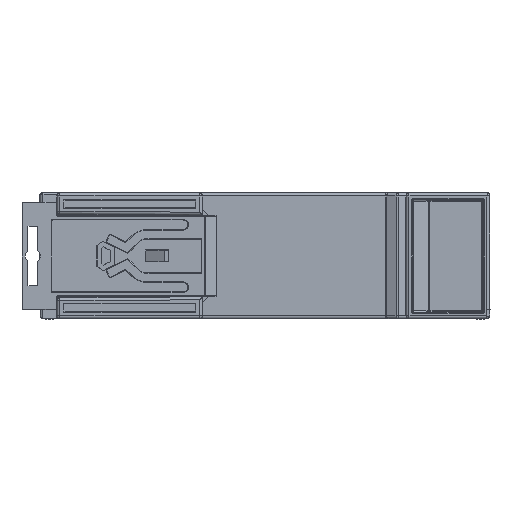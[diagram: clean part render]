
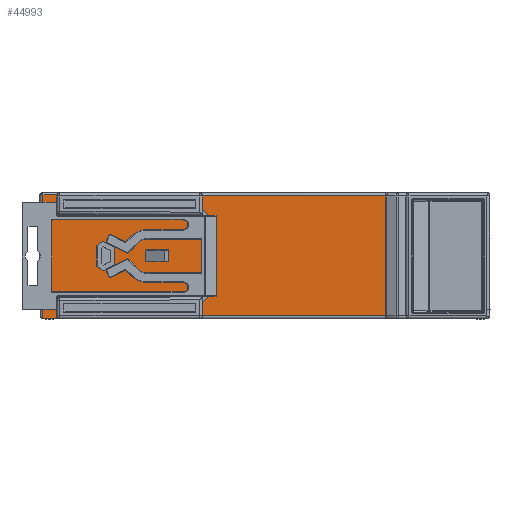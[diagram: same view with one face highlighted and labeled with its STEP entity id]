
A CAD part, left-side view. The second image highlights one B-rep face of the part: STEP entity #44993.
In plain terms, the highlighted planar face has unit normal (-1, 0, 0).
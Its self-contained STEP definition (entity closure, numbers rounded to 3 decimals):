
#923=DIRECTION('',(0.,-1.,0.));
#924=VECTOR('',#923,2.742);
#925=CARTESIAN_POINT('',(-44.75,36.942,0.));
#926=LINE('',#925,#924);
#1011=DIRECTION('',(0.,0.,1.));
#1012=VECTOR('',#1011,20.);
#1013=CARTESIAN_POINT('',(-44.75,-20.161,0.5));
#1014=LINE('',#1013,#1012);
#1049=DIRECTION('',(0.,-1.,0.));
#1050=VECTOR('',#1049,30.561);
#1051=CARTESIAN_POINT('',(-44.75,10.4,0.5));
#1052=LINE('',#1051,#1050);
#1075=CARTESIAN_POINT('',(-44.75,34.2,20.5));
#1076=DIRECTION('',(-1.,0.,0.));
#1077=DIRECTION('',(0.,0.916,0.4));
#1078=AXIS2_PLACEMENT_3D('',#1075,#1076,#1077);
#1083=CARTESIAN_POINT('',(-44.75,34.2,19.008));
#1084=DIRECTION('',(-1.,0.,0.));
#1085=DIRECTION('',(0.,1.,0.));
#1086=AXIS2_PLACEMENT_3D('',#1083,#1084,#1085);
#1091=DIRECTION('',(0.,-1.,-0.009));
#1092=VECTOR('',#1091,23.805);
#1093=CARTESIAN_POINT('',(-44.75,34.204,18.508));
#1094=LINE('',#1093,#1092);
#1098=DIRECTION('',(0.,0.,1.));
#1099=VECTOR('',#1098,2.2);
#1100=CARTESIAN_POINT('',(-44.75,10.4,18.3));
#1101=LINE('',#1100,#1099);
#1105=DIRECTION('',(0.,0.,1.));
#1106=VECTOR('',#1105,2.2);
#1107=CARTESIAN_POINT('',(-44.75,10.4,0.5));
#1108=LINE('',#1107,#1106);
#1112=DIRECTION('',(0.,1.,-0.009));
#1113=VECTOR('',#1112,23.805);
#1114=CARTESIAN_POINT('',(-44.75,10.4,2.7));
#1115=LINE('',#1114,#1113);
#1119=CARTESIAN_POINT('',(-44.75,34.2,1.992));
#1120=DIRECTION('',(-1.,0.,0.));
#1121=DIRECTION('',(0.,0.009,1.));
#1122=AXIS2_PLACEMENT_3D('',#1119,#1120,#1121);
#1127=CARTESIAN_POINT('',(-44.75,34.2,0.5));
#1128=DIRECTION('',(-1.,0.,0.));
#1129=DIRECTION('',(0.,1.,0.));
#1130=AXIS2_PLACEMENT_3D('',#1127,#1128,#1129);
#1135=CARTESIAN_POINT('',(-44.75,36.942,0.5));
#1136=DIRECTION('',(1.,0.,0.));
#1137=DIRECTION('',(0.,0.,-1.));
#1138=AXIS2_PLACEMENT_3D('',#1135,#1136,#1137);
#1143=DIRECTION('',(0.,0.894,0.447));
#1144=VECTOR('',#1143,2.282);
#1145=CARTESIAN_POINT('',(-44.75,25.,11.95));
#1146=LINE('',#1145,#1144);
#1150=DIRECTION('',(0.,0.81,-0.587));
#1151=VECTOR('',#1150,1.185);
#1152=CARTESIAN_POINT('',(-44.75,27.041,12.97));
#1153=LINE('',#1152,#1151);
#1157=DIRECTION('',(0.,-0.81,-0.587));
#1158=VECTOR('',#1157,1.235);
#1159=CARTESIAN_POINT('',(-44.75,28.,8.775));
#1160=LINE('',#1159,#1158);
#1164=DIRECTION('',(0.,-0.894,0.447));
#1165=VECTOR('',#1164,2.236);
#1166=CARTESIAN_POINT('',(-44.75,27.,8.05));
#1167=LINE('',#1166,#1165);
#1171=DIRECTION('',(0.,-1.,0.));
#1172=VECTOR('',#1171,3.9);
#1173=CARTESIAN_POINT('',(-44.75,19.9,9.5));
#1174=LINE('',#1173,#1172);
#1178=DIRECTION('',(0.,0.,-1.));
#1179=VECTOR('',#1178,2.);
#1180=CARTESIAN_POINT('',(-44.75,19.9,11.5));
#1181=LINE('',#1180,#1179);
#1192=DIRECTION('',(0.,0.,-1.));
#1193=VECTOR('',#1192,20.697);
#1194=CARTESIAN_POINT('',(-44.75,37.,20.7));
#1195=LINE('',#1194,#1193);
#13279=DIRECTION('',(0.,1.,0.));
#13280=VECTOR('',#13279,30.561);
#13281=CARTESIAN_POINT('',(-44.75,-20.161,20.5));
#13282=LINE('',#13281,#13280);
#13366=DIRECTION('',(0.,0.,1.));
#13367=VECTOR('',#13366,1.492);
#13368=CARTESIAN_POINT('',(-44.75,34.7,19.008));
#13369=LINE('',#13368,#13367);
#13398=DIRECTION('',(0.,1.,0.));
#13399=VECTOR('',#13398,2.342);
#13400=CARTESIAN_POINT('',(-44.75,34.658,20.7));
#13401=LINE('',#13400,#13399);
#37928=DIRECTION('',(0.,0.,1.));
#37929=VECTOR('',#37928,1.492);
#37930=CARTESIAN_POINT('',(-44.75,34.7,0.5));
#37931=LINE('',#37930,#37929);
#38163=DIRECTION('',(0.,0.,-1.));
#38164=VECTOR('',#38163,2.9);
#38165=CARTESIAN_POINT('',(-44.75,25.,11.95));
#38166=LINE('',#38165,#38164);
#38191=DIRECTION('',(0.,0.,1.));
#38192=VECTOR('',#38191,3.5);
#38193=CARTESIAN_POINT('',(-44.75,28.,8.775));
#38194=LINE('',#38193,#38192);
#38394=DIRECTION('',(0.,-1.,0.));
#38395=VECTOR('',#38394,3.9);
#38396=CARTESIAN_POINT('',(-44.75,19.9,11.5));
#38397=LINE('',#38396,#38395);
#38422=DIRECTION('',(0.,0.,-1.));
#38423=VECTOR('',#38422,2.);
#38424=CARTESIAN_POINT('',(-44.75,16.,11.5));
#38425=LINE('',#38424,#38423);
#39072=CARTESIAN_POINT('',(-44.75,36.942,0.));
#39073=VERTEX_POINT('',#39072);
#39074=CARTESIAN_POINT('',(-44.75,34.2,0.));
#39075=VERTEX_POINT('',#39074);
#39128=CARTESIAN_POINT('',(-44.75,-20.161,0.5));
#39129=VERTEX_POINT('',#39128);
#39130=CARTESIAN_POINT('',(-44.75,-20.161,20.5));
#39131=VERTEX_POINT('',#39130);
#39132=CARTESIAN_POINT('',(-44.75,10.4,0.5));
#39133=VERTEX_POINT('',#39132);
#39154=CARTESIAN_POINT('',(-44.75,37.,20.7));
#39155=CARTESIAN_POINT('',(-44.75,37.,0.003));
#39156=VERTEX_POINT('',#39154);
#39157=VERTEX_POINT('',#39155);
#39158=CARTESIAN_POINT('',(-44.75,34.658,20.7));
#39159=VERTEX_POINT('',#39158);
#39160=CARTESIAN_POINT('',(-44.75,34.7,20.5));
#39161=VERTEX_POINT('',#39160);
#39162=CARTESIAN_POINT('',(-44.75,34.7,19.008));
#39163=VERTEX_POINT('',#39162);
#39164=CARTESIAN_POINT('',(-44.75,34.204,18.508));
#39165=VERTEX_POINT('',#39164);
#39166=CARTESIAN_POINT('',(-44.75,10.4,18.3));
#39167=VERTEX_POINT('',#39166);
#39168=CARTESIAN_POINT('',(-44.75,10.4,20.5));
#39169=VERTEX_POINT('',#39168);
#39170=CARTESIAN_POINT('',(-44.75,10.4,2.7));
#39171=VERTEX_POINT('',#39170);
#39172=CARTESIAN_POINT('',(-44.75,34.204,2.492));
#39173=VERTEX_POINT('',#39172);
#39174=CARTESIAN_POINT('',(-44.75,34.7,1.992));
#39175=VERTEX_POINT('',#39174);
#39176=CARTESIAN_POINT('',(-44.75,34.7,0.5));
#39177=VERTEX_POINT('',#39176);
#39178=CARTESIAN_POINT('',(-44.75,25.,11.95));
#39179=CARTESIAN_POINT('',(-44.75,27.041,12.97));
#39180=VERTEX_POINT('',#39178);
#39181=VERTEX_POINT('',#39179);
#39182=CARTESIAN_POINT('',(-44.75,28.,12.275));
#39183=VERTEX_POINT('',#39182);
#39184=CARTESIAN_POINT('',(-44.75,28.,8.775));
#39185=VERTEX_POINT('',#39184);
#39186=CARTESIAN_POINT('',(-44.75,27.,8.05));
#39187=VERTEX_POINT('',#39186);
#39188=CARTESIAN_POINT('',(-44.75,25.,9.05));
#39189=VERTEX_POINT('',#39188);
#39190=CARTESIAN_POINT('',(-44.75,19.9,9.5));
#39191=CARTESIAN_POINT('',(-44.75,16.,9.5));
#39192=VERTEX_POINT('',#39190);
#39193=VERTEX_POINT('',#39191);
#39194=CARTESIAN_POINT('',(-44.75,16.,11.5));
#39195=VERTEX_POINT('',#39194);
#39196=CARTESIAN_POINT('',(-44.75,19.9,11.5));
#39197=VERTEX_POINT('',#39196);
#44931=CARTESIAN_POINT('',(-44.75,-25.05,21.));
#44932=DIRECTION('',(1.,0.,0.));
#44933=DIRECTION('',(0.,1.,0.));
#44934=AXIS2_PLACEMENT_3D('',#44931,#44932,#44933);
#44935=PLANE('',#44934);
#44937=ORIENTED_EDGE('',*,*,#44936,.F.);
#44939=ORIENTED_EDGE('',*,*,#44938,.F.);
#44941=ORIENTED_EDGE('',*,*,#44940,.T.);
#44943=ORIENTED_EDGE('',*,*,#44942,.F.);
#44945=ORIENTED_EDGE('',*,*,#44944,.T.);
#44947=ORIENTED_EDGE('',*,*,#44946,.T.);
#44949=ORIENTED_EDGE('',*,*,#44948,.T.);
#44951=ORIENTED_EDGE('',*,*,#44950,.F.);
#44952=ORIENTED_EDGE('',*,*,#44896,.F.);
#44953=ORIENTED_EDGE('',*,*,#44922,.F.);
#44955=ORIENTED_EDGE('',*,*,#44954,.T.);
#44957=ORIENTED_EDGE('',*,*,#44956,.T.);
#44959=ORIENTED_EDGE('',*,*,#44958,.T.);
#44961=ORIENTED_EDGE('',*,*,#44960,.F.);
#44963=ORIENTED_EDGE('',*,*,#44962,.T.);
#44964=ORIENTED_EDGE('',*,*,#44779,.F.);
#44966=ORIENTED_EDGE('',*,*,#44965,.T.);
#44967=EDGE_LOOP('',(#44937,#44939,#44941,#44943,#44945,#44947,#44949,#44951,
#44952,#44953,#44955,#44957,#44959,#44961,#44963,#44964,#44966));
#44968=FACE_OUTER_BOUND('',#44967,.F.);
#44970=ORIENTED_EDGE('',*,*,#44969,.T.);
#44972=ORIENTED_EDGE('',*,*,#44971,.T.);
#44974=ORIENTED_EDGE('',*,*,#44973,.F.);
#44976=ORIENTED_EDGE('',*,*,#44975,.T.);
#44978=ORIENTED_EDGE('',*,*,#44977,.T.);
#44980=ORIENTED_EDGE('',*,*,#44979,.F.);
#44981=EDGE_LOOP('',(#44970,#44972,#44974,#44976,#44978,#44980));
#44982=FACE_BOUND('',#44981,.F.);
#44984=ORIENTED_EDGE('',*,*,#44983,.T.);
#44986=ORIENTED_EDGE('',*,*,#44985,.F.);
#44988=ORIENTED_EDGE('',*,*,#44987,.F.);
#44990=ORIENTED_EDGE('',*,*,#44989,.T.);
#44991=EDGE_LOOP('',(#44984,#44986,#44988,#44990));
#44992=FACE_BOUND('',#44991,.F.);
#1079=CIRCLE('',#1078,0.5);
#1087=CIRCLE('',#1086,0.5);
#1123=CIRCLE('',#1122,0.5);
#1131=CIRCLE('',#1130,0.5);
#1139=CIRCLE('',#1138,0.5);
#44779=EDGE_CURVE('',#39073,#39075,#926,.T.);
#44896=EDGE_CURVE('',#39129,#39131,#1014,.T.);
#44922=EDGE_CURVE('',#39133,#39129,#1052,.T.);
#44936=EDGE_CURVE('',#39156,#39157,#1195,.T.);
#44938=EDGE_CURVE('',#39159,#39156,#13401,.T.);
#44940=EDGE_CURVE('',#39159,#39161,#1079,.T.);
#44942=EDGE_CURVE('',#39163,#39161,#13369,.T.);
#44944=EDGE_CURVE('',#39163,#39165,#1087,.T.);
#44946=EDGE_CURVE('',#39165,#39167,#1094,.T.);
#44948=EDGE_CURVE('',#39167,#39169,#1101,.T.);
#44950=EDGE_CURVE('',#39131,#39169,#13282,.T.);
#44954=EDGE_CURVE('',#39133,#39171,#1108,.T.);
#44956=EDGE_CURVE('',#39171,#39173,#1115,.T.);
#44958=EDGE_CURVE('',#39173,#39175,#1123,.T.);
#44960=EDGE_CURVE('',#39177,#39175,#37931,.T.);
#44962=EDGE_CURVE('',#39177,#39075,#1131,.T.);
#44965=EDGE_CURVE('',#39073,#39157,#1139,.T.);
#44969=EDGE_CURVE('',#39180,#39181,#1146,.T.);
#44971=EDGE_CURVE('',#39181,#39183,#1153,.T.);
#44973=EDGE_CURVE('',#39185,#39183,#38194,.T.);
#44975=EDGE_CURVE('',#39185,#39187,#1160,.T.);
#44977=EDGE_CURVE('',#39187,#39189,#1167,.T.);
#44979=EDGE_CURVE('',#39180,#39189,#38166,.T.);
#44983=EDGE_CURVE('',#39192,#39193,#1174,.T.);
#44985=EDGE_CURVE('',#39195,#39193,#38425,.T.);
#44987=EDGE_CURVE('',#39197,#39195,#38397,.T.);
#44989=EDGE_CURVE('',#39197,#39192,#1181,.T.);
#44993=ADVANCED_FACE('',(#44968,#44982,#44992),#44935,.F.);
